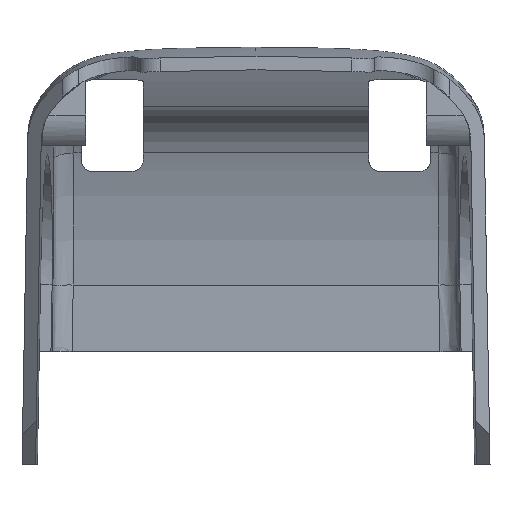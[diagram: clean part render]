
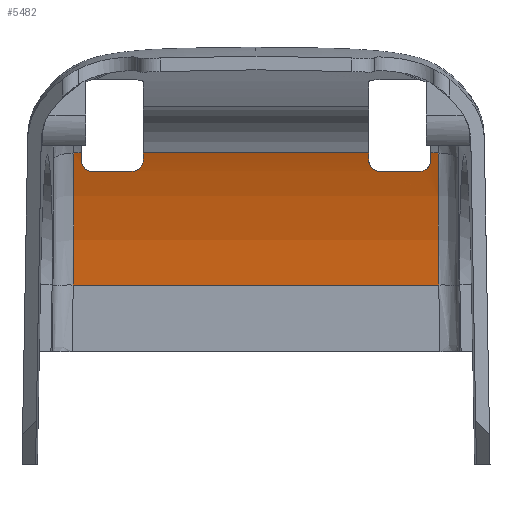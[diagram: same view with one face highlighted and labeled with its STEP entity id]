
A CAD part, front view. The second image highlights one B-rep face of the part: STEP entity #5482.
In plain terms, the highlighted cylindrical face has radius 38.352 mm (diameter 76.705 mm), a partial arc.
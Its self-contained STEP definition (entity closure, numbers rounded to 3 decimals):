
#664=CARTESIAN_POINT('',(-15.5,-23.975,-2.47));
#665=DIRECTION('',(1.,0.,0.));
#666=DIRECTION('',(0.,0.936,0.351));
#667=AXIS2_PLACEMENT_3D('',#664,#665,#666);
#913=CARTESIAN_POINT('',(15.5,-23.975,-2.47));
#914=DIRECTION('',(-1.,0.,0.));
#915=DIRECTION('',(0.,0.93,0.368));
#916=AXIS2_PLACEMENT_3D('',#913,#914,#915);
#1499=CARTESIAN_POINT('',(-10.,-23.975,-2.47));
#1500=DIRECTION('',(-1.,0.,0.));
#1501=DIRECTION('',(0.,0.93,0.368));
#1502=AXIS2_PLACEMENT_3D('',#1499,#1500,#1501);
#1514=CARTESIAN_POINT('',(10.,-23.975,-2.47));
#1515=DIRECTION('',(1.,0.,0.));
#1516=DIRECTION('',(0.,0.936,0.351));
#1517=AXIS2_PLACEMENT_3D('',#1514,#1515,#1516);
#1576=CARTESIAN_POINT('',(10.,11.934,11.));
#1577=CARTESIAN_POINT('',(10.,11.976,10.888));
#1578=CARTESIAN_POINT('',(10.036,12.054,10.677));
#1579=CARTESIAN_POINT('',(10.187,12.158,10.389));
#1580=CARTESIAN_POINT('',(10.413,12.235,10.169));
#1581=CARTESIAN_POINT('',(10.704,12.284,10.028));
#1582=CARTESIAN_POINT('',(10.899,12.293,10.));
#1583=CARTESIAN_POINT('',(11.,12.293,10.));
#1588=DIRECTION('',(1.,0.,0.));
#1589=VECTOR('',#1588,3.5);
#1590=CARTESIAN_POINT('',(11.,12.293,10.));
#1591=LINE('',#1590,#1589);
#1595=CARTESIAN_POINT('',(14.5,12.293,10.));
#1596=CARTESIAN_POINT('',(14.586,12.293,10.));
#1597=CARTESIAN_POINT('',(14.752,12.286,10.02));
#1598=CARTESIAN_POINT('',(15.002,12.251,10.122));
#1599=CARTESIAN_POINT('',(15.204,12.198,10.274));
#1600=CARTESIAN_POINT('',(15.37,12.124,10.483));
#1601=CARTESIAN_POINT('',(15.473,12.036,10.725));
#1602=CARTESIAN_POINT('',(15.5,11.97,10.905));
#1603=CARTESIAN_POINT('',(15.5,11.934,11.));
#1608=CARTESIAN_POINT('',(16.178,11.69,11.633));
#1609=CARTESIAN_POINT('',(16.169,12.182,10.388));
#1610=CARTESIAN_POINT('',(16.159,13.036,7.848));
#1611=CARTESIAN_POINT('',(16.17,13.912,3.923));
#1612=CARTESIAN_POINT('',(16.194,14.219,1.261));
#1613=CARTESIAN_POINT('',(16.211,14.302,
-0.075));
#1618=DIRECTION('',(-1.,0.,0.));
#1619=VECTOR('',#1618,32.422);
#1620=CARTESIAN_POINT('',(16.211,14.302,
-0.075));
#1621=LINE('',#1620,#1619);
#1625=CARTESIAN_POINT('',(-16.211,14.302,
-0.075));
#1626=CARTESIAN_POINT('',(-16.194,14.219,1.261));
#1627=CARTESIAN_POINT('',(-16.17,13.912,3.923));
#1628=CARTESIAN_POINT('',(-16.159,13.036,7.848));
#1629=CARTESIAN_POINT('',(-16.17,12.182,10.388));
#1630=CARTESIAN_POINT('',(-16.178,11.69,11.633));
#1635=CARTESIAN_POINT('',(-15.5,11.934,11.));
#1636=CARTESIAN_POINT('',(-15.5,11.976,10.888));
#1637=CARTESIAN_POINT('',(-15.464,12.054,10.677));
#1638=CARTESIAN_POINT('',(-15.313,12.158,10.389));
#1639=CARTESIAN_POINT('',(-15.087,12.235,10.169));
#1640=CARTESIAN_POINT('',(-14.796,12.284,10.028));
#1641=CARTESIAN_POINT('',(-14.601,12.293,10.));
#1642=CARTESIAN_POINT('',(-14.5,12.293,10.));
#1647=DIRECTION('',(1.,0.,0.));
#1648=VECTOR('',#1647,3.5);
#1649=CARTESIAN_POINT('',(-14.5,12.293,10.));
#1650=LINE('',#1649,#1648);
#1654=CARTESIAN_POINT('',(-11.,12.293,10.));
#1655=CARTESIAN_POINT('',(-10.914,12.293,10.));
#1656=CARTESIAN_POINT('',(-10.748,12.286,10.02));
#1657=CARTESIAN_POINT('',(-10.498,12.251,10.122));
#1658=CARTESIAN_POINT('',(-10.296,12.198,10.274));
#1659=CARTESIAN_POINT('',(-10.13,12.124,10.483));
#1660=CARTESIAN_POINT('',(-10.027,12.036,10.725));
#1661=CARTESIAN_POINT('',(-10.,11.97,10.905));
#1662=CARTESIAN_POINT('',(-10.,11.934,11.));
#1667=DIRECTION('',(-1.,0.,0.));
#1668=VECTOR('',#1667,0.678);
#1669=CARTESIAN_POINT('',(16.178,11.69,11.633));
#1670=LINE('',#1669,#1668);
#2952=DIRECTION('',(-1.,0.,0.));
#2953=VECTOR('',#2952,0.678);
#2954=CARTESIAN_POINT('',(-15.5,11.69,11.633));
#2955=LINE('',#2954,#2953);
#3456=DIRECTION('',(-1.,0.,0.));
#3457=VECTOR('',#3456,20.);
#3458=CARTESIAN_POINT('',(10.,11.69,11.633));
#3459=LINE('',#3458,#3457);
#3868=CARTESIAN_POINT('',(15.5,11.934,11.));
#3870=VERTEX_POINT('',#3868);
#3881=CARTESIAN_POINT('',(15.5,11.69,11.633));
#3882=VERTEX_POINT('',#3881);
#3883=CARTESIAN_POINT('',(14.5,12.293,10.));
#3885=VERTEX_POINT('',#3883);
#3887=CARTESIAN_POINT('',(11.,12.293,10.));
#3888=VERTEX_POINT('',#3887);
#3891=CARTESIAN_POINT('',(-11.,12.293,10.));
#3893=VERTEX_POINT('',#3891);
#3895=CARTESIAN_POINT('',(-14.5,12.293,10.));
#3896=VERTEX_POINT('',#3895);
#3899=CARTESIAN_POINT('',(10.,11.934,11.));
#3900=CARTESIAN_POINT('',(10.,11.69,11.633));
#3901=VERTEX_POINT('',#3899);
#3902=VERTEX_POINT('',#3900);
#3903=CARTESIAN_POINT('',(16.178,11.69,11.633));
#3904=VERTEX_POINT('',#3903);
#3905=VERTEX_POINT('',#1613);
#3906=CARTESIAN_POINT('',(-16.211,14.302,
-0.075));
#3907=VERTEX_POINT('',#3906);
#3908=VERTEX_POINT('',#1630);
#3909=CARTESIAN_POINT('',(-15.5,11.69,11.633));
#3910=VERTEX_POINT('',#3909);
#3911=CARTESIAN_POINT('',(-15.5,11.934,11.));
#3912=VERTEX_POINT('',#3911);
#3913=VERTEX_POINT('',#1662);
#3914=CARTESIAN_POINT('',(-10.,11.69,11.633));
#3915=VERTEX_POINT('',#3914);
#5453=CARTESIAN_POINT('',(-25.037,-23.975,
-2.47));
#5454=DIRECTION('',(1.,0.,0.));
#5455=DIRECTION('',(0.,0.,-1.));
#5456=AXIS2_PLACEMENT_3D('',#5453,#5454,#5455);
#5457=CYLINDRICAL_SURFACE('',#5456,38.352);
#5458=ORIENTED_EDGE('',*,*,#5425,.F.);
#5459=ORIENTED_EDGE('',*,*,#5446,.T.);
#5460=ORIENTED_EDGE('',*,*,#4729,.T.);
#5461=ORIENTED_EDGE('',*,*,#4746,.T.);
#5462=ORIENTED_EDGE('',*,*,#4774,.F.);
#5464=ORIENTED_EDGE('',*,*,#5463,.F.);
#5466=ORIENTED_EDGE('',*,*,#5465,.T.);
#5468=ORIENTED_EDGE('',*,*,#5467,.T.);
#5470=ORIENTED_EDGE('',*,*,#5469,.T.);
#5472=ORIENTED_EDGE('',*,*,#5471,.F.);
#5473=ORIENTED_EDGE('',*,*,#4620,.F.);
#5474=ORIENTED_EDGE('',*,*,#4648,.T.);
#5475=ORIENTED_EDGE('',*,*,#4663,.T.);
#5476=ORIENTED_EDGE('',*,*,#4681,.T.);
#5477=ORIENTED_EDGE('',*,*,#5399,.F.);
#5479=ORIENTED_EDGE('',*,*,#5478,.F.);
#5480=EDGE_LOOP('',(#5458,#5459,#5460,#5461,#5462,#5464,#5466,#5468,#5470,#5472,
#5473,#5474,#5475,#5476,#5477,#5479));
#5481=FACE_OUTER_BOUND('',#5480,.F.);
#668=CIRCLE('',#667,38.352);
#917=CIRCLE('',#916,38.352);
#1503=CIRCLE('',#1502,38.352);
#1518=CIRCLE('',#1517,38.352);
#1584=B_SPLINE_CURVE_WITH_KNOTS('',3,(#1576,#1577,#1578,#1579,#1580,#1581,#1582,
#1583),.UNSPECIFIED.,.F.,.F.,(4,1,1,1,1,4),(0.,0.2,0.4,0.6,0.8,1.),
.UNSPECIFIED.);
#1604=B_SPLINE_CURVE_WITH_KNOTS('',3,(#1595,#1596,#1597,#1598,#1599,#1600,#1601,
#1602,#1603),.UNSPECIFIED.,.F.,.F.,(4,1,1,1,1,1,4),(0.,0.167,
0.333,0.5,0.667,0.833,1.),
.UNSPECIFIED.);
#1614=B_SPLINE_CURVE_WITH_KNOTS('',3,(#1608,#1609,#1610,#1611,#1612,#1613),
.UNSPECIFIED.,.F.,.F.,(4,1,1,4),(0.,0.333,0.667,1.),
.UNSPECIFIED.);
#1631=B_SPLINE_CURVE_WITH_KNOTS('',3,(#1625,#1626,#1627,#1628,#1629,#1630),
.UNSPECIFIED.,.F.,.F.,(4,1,1,4),(0.,0.333,0.667,1.),
.UNSPECIFIED.);
#1643=B_SPLINE_CURVE_WITH_KNOTS('',3,(#1635,#1636,#1637,#1638,#1639,#1640,#1641,
#1642),.UNSPECIFIED.,.F.,.F.,(4,1,1,1,1,4),(0.,0.2,0.4,0.6,0.8,1.),
.UNSPECIFIED.);
#1663=B_SPLINE_CURVE_WITH_KNOTS('',3,(#1654,#1655,#1656,#1657,#1658,#1659,#1660,
#1661,#1662),.UNSPECIFIED.,.F.,.F.,(4,1,1,1,1,1,4),(0.,0.167,
0.333,0.5,0.667,0.833,1.),
.UNSPECIFIED.);
#4620=EDGE_CURVE('',#3912,#3910,#668,.T.);
#4648=EDGE_CURVE('',#3912,#3896,#1643,.T.);
#4663=EDGE_CURVE('',#3896,#3893,#1650,.T.);
#4681=EDGE_CURVE('',#3893,#3913,#1663,.T.);
#4729=EDGE_CURVE('',#3888,#3885,#1591,.T.);
#4746=EDGE_CURVE('',#3885,#3870,#1604,.T.);
#4774=EDGE_CURVE('',#3882,#3870,#917,.T.);
#5399=EDGE_CURVE('',#3915,#3913,#1503,.T.);
#5425=EDGE_CURVE('',#3901,#3902,#1518,.T.);
#5446=EDGE_CURVE('',#3901,#3888,#1584,.T.);
#5463=EDGE_CURVE('',#3904,#3882,#1670,.T.);
#5465=EDGE_CURVE('',#3904,#3905,#1614,.T.);
#5467=EDGE_CURVE('',#3905,#3907,#1621,.T.);
#5469=EDGE_CURVE('',#3907,#3908,#1631,.T.);
#5471=EDGE_CURVE('',#3910,#3908,#2955,.T.);
#5478=EDGE_CURVE('',#3902,#3915,#3459,.T.);
#5482=ADVANCED_FACE('',(#5481),#5457,.F.);
